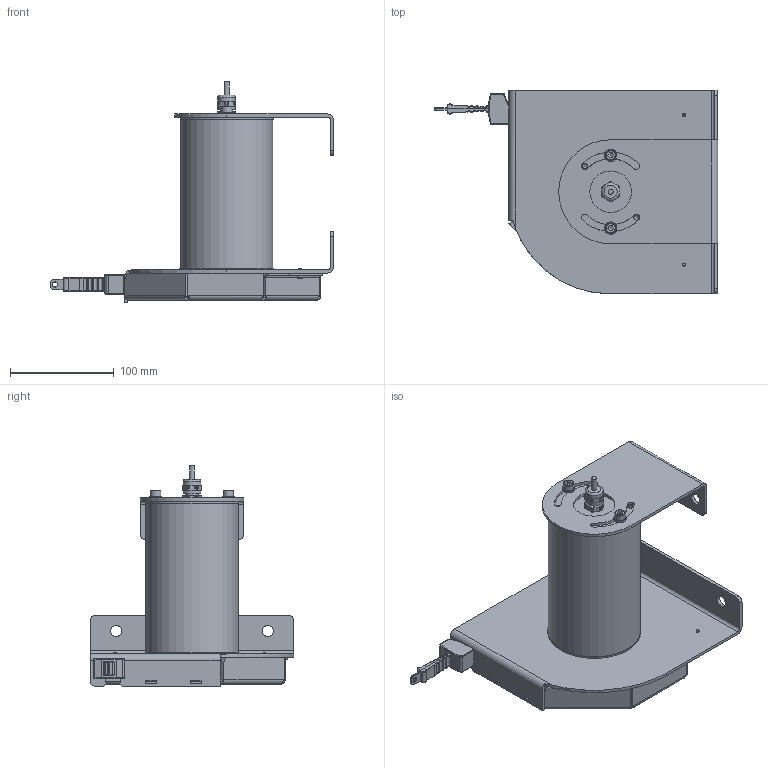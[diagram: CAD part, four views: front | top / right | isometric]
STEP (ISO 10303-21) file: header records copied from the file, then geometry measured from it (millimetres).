
FILE_DESCRIPTION((''),'2;1');
FILE_NAME('C:\Dokumente und Einstellungen\Waneck\Eigene Dateien\Waneck\Zeichnungen\WB-Sensoren Step\WB100M 7500-(I-U-MSSI-CAN)-KAB-BAB.stp','2010-10-28T09:00:53',('waneck'),(''),'Autodesk Inventor 2008','Autodesk Inventor 2008','');
FILE_SCHEMA(('AUTOMOTIVE_DESIGN { 1 0 10303 214 1 1 1 1 }'));
Length unit declared in the file: millimetre
Products named in the file (1): Bauteil2
Bounding box: 272.7 x 196 x 211.9 mm (x, y, z)
Volume: 1889118.8 mm3; surface area: 188644 mm2
Topology: 1 solids, 2 shells, 596 faces, 1578 edges, 968 vertices
Faces by surface type: plane 231, cylinder 217, bspline 83, sphere 36, cone 18, torus 11
Full cylindrical faces by diameter (mm): 3 x2, 4.7 x1, 5.5 x2, 6 x2, 6.4 x2, 10 x2, 12 x3, 17 x2, 88.9 x1, 90 x2
Entity records: 22287 total; most frequent: CARTESIAN_POINT 7761, ORIENTED_EDGE 2990, DIRECTION 2869, EDGE_CURVE 1495, AXIS2_PLACEMENT_3D 1067, VERTEX_POINT 946, VECTOR 735, LINE 735
